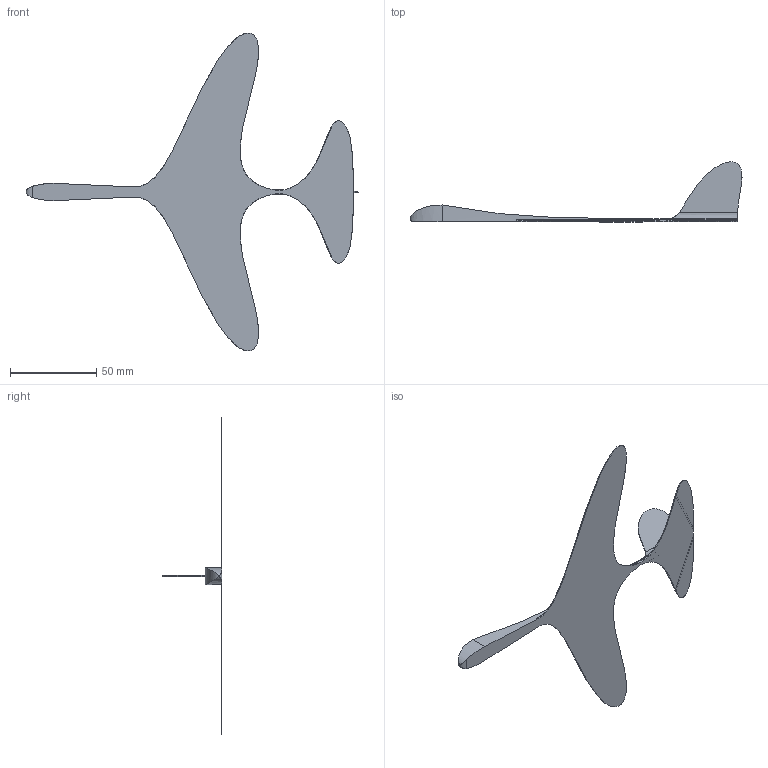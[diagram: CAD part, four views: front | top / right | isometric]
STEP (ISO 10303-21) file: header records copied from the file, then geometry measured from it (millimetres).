
FILE_DESCRIPTION (( 'STEP AP214' ), '1' );
FILE_NAME ('StableFlyer-Gen.VI.STEP', '2023-03-03T13:57:57', ( '' ), ( '' ), 'SwSTEP 2.0', 'SolidWorks 2021', '' );
FILE_SCHEMA (( 'AUTOMOTIVE_DESIGN' ));
Length unit declared in the file: millimetre
Products named in the file (1): StableFlyer-Gen.VI
Bounding box: 192.67 x 34.72 x 184.46 mm (x, y, z)
Volume: 9068.9 mm3; surface area: 20384.7 mm2
Topology: 1 solids, 1 shells, 47 faces, 126 edges, 81 vertices
Faces by surface type: plane 20, bspline 18, cylinder 9
Entity records: 2266 total; most frequent: CARTESIAN_POINT 1260, ORIENTED_EDGE 252, EDGE_CURVE 126, DIRECTION 121, VERTEX_POINT 81, B_SPLINE_CURVE_WITH_KNOTS 72, ADVANCED_FACE 47, EDGE_LOOP 47
